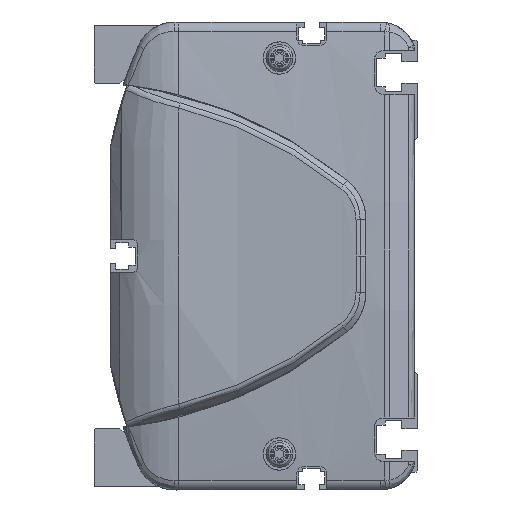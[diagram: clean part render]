
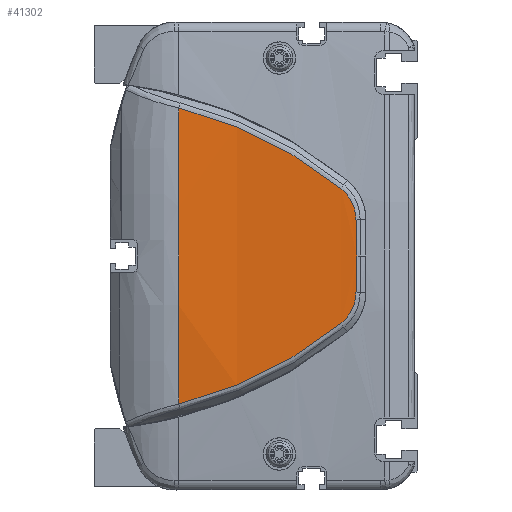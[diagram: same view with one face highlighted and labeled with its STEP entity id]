
A CAD part, left-side view. The second image highlights one B-rep face of the part: STEP entity #41302.
In plain terms, the highlighted cylindrical face has radius 500 mm (diameter 1000 mm), a partial arc.
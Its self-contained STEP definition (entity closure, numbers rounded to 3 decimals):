
#37562=CARTESIAN_POINT('',(486.,66.362,0.));
#37563=DIRECTION('',(0.,-1.,0.));
#37564=DIRECTION('',(-0.997,0.,0.082));
#37565=AXIS2_PLACEMENT_3D('',#37562,#37563,#37564);
#38456=CARTESIAN_POINT('',(-13.648,21.313,
-18.759));
#38457=CARTESIAN_POINT('',(-13.449,27.904,
-24.058));
#38458=CARTESIAN_POINT('',(-12.934,42.195,
-33.27));
#38459=CARTESIAN_POINT('',(-12.471,58.156,
-39.127));
#38460=CARTESIAN_POINT('',(-12.306,66.362,
-41.121));
#38462=CARTESIAN_POINT('',(-12.306,66.362,
41.121));
#38463=CARTESIAN_POINT('',(-12.471,58.156,
39.127));
#38464=CARTESIAN_POINT('',(-12.934,42.195,
33.27));
#38465=CARTESIAN_POINT('',(-13.449,27.904,
24.058));
#38466=CARTESIAN_POINT('',(-13.648,21.313,
18.759));
#38468=CARTESIAN_POINT('',(-13.648,21.313,
18.759));
#38469=CARTESIAN_POINT('',(-13.686,20.035,
17.736));
#38470=CARTESIAN_POINT('',(-13.779,17.936,
15.107));
#38471=CARTESIAN_POINT('',(-13.863,17.152,
11.827));
#38472=CARTESIAN_POINT('',(-13.896,17.124,
10.178));
#38474=CARTESIAN_POINT('',(-13.896,17.124,
10.178));
#38475=CARTESIAN_POINT('',(-13.92,17.107,
9.027));
#38476=CARTESIAN_POINT('',(-13.958,17.067,
6.738));
#38477=CARTESIAN_POINT('',(-13.993,16.98,
3.344));
#38478=CARTESIAN_POINT('',(-14.,16.898,
1.11));
#38479=CARTESIAN_POINT('',(-14.,16.849,
0.));
#38481=CARTESIAN_POINT('',(-14.,16.849,
0.));
#38482=CARTESIAN_POINT('',(-14.,16.898,
-1.11));
#38483=CARTESIAN_POINT('',(-13.993,16.98,
-3.344));
#38484=CARTESIAN_POINT('',(-13.958,17.067,
-6.737));
#38485=CARTESIAN_POINT('',(-13.92,17.107,
-9.029));
#38486=CARTESIAN_POINT('',(-13.896,17.124,
-10.18));
#38488=CARTESIAN_POINT('',(-13.896,17.124,
-10.18));
#38489=CARTESIAN_POINT('',(-13.863,17.152,
-11.828));
#38490=CARTESIAN_POINT('',(-13.779,17.937,
-15.109));
#38491=CARTESIAN_POINT('',(-13.686,20.035,
-17.736));
#38492=CARTESIAN_POINT('',(-13.648,21.313,
-18.759));
#39126=VERTEX_POINT('',#38456);
#39127=VERTEX_POINT('',#38460);
#39128=CARTESIAN_POINT('',(-12.306,66.362,
41.121));
#39129=VERTEX_POINT('',#39128);
#39130=VERTEX_POINT('',#38466);
#39131=VERTEX_POINT('',#38472);
#39132=VERTEX_POINT('',#38479);
#39133=VERTEX_POINT('',#38486);
#41283=CARTESIAN_POINT('',(486.,8.006,0.));
#41284=DIRECTION('',(0.,1.,0.));
#41285=DIRECTION('',(1.,0.,0.));
#41286=AXIS2_PLACEMENT_3D('',#41283,#41284,#41285);
#41287=CYLINDRICAL_SURFACE('',#41286,500.);
#41289=ORIENTED_EDGE('',*,*,#41288,.T.);
#41290=ORIENTED_EDGE('',*,*,#39928,.F.);
#41292=ORIENTED_EDGE('',*,*,#41291,.T.);
#41294=ORIENTED_EDGE('',*,*,#41293,.T.);
#41296=ORIENTED_EDGE('',*,*,#41295,.T.);
#41298=ORIENTED_EDGE('',*,*,#41297,.T.);
#41299=ORIENTED_EDGE('',*,*,#41273,.T.);
#41300=EDGE_LOOP('',(#41289,#41290,#41292,#41294,#41296,#41298,#41299));
#41301=FACE_OUTER_BOUND('',#41300,.F.);
#41302=ADVANCED_FACE('',(#41301),#41287,.T.);
#37566=CIRCLE('',#37565,500.);
#38461=B_SPLINE_CURVE_WITH_KNOTS('',3,(#38456,#38457,#38458,#38459,#38460),
.UNSPECIFIED.,.F.,.F.,(4,1,4),(0.,0.5,1.),.UNSPECIFIED.);
#38467=B_SPLINE_CURVE_WITH_KNOTS('',3,(#38462,#38463,#38464,#38465,#38466),
.UNSPECIFIED.,.F.,.F.,(4,1,4),(0.,0.5,1.),.UNSPECIFIED.);
#38473=B_SPLINE_CURVE_WITH_KNOTS('',3,(#38468,#38469,#38470,#38471,#38472),
.UNSPECIFIED.,.F.,.F.,(4,1,4),(0.,0.5,1.),.UNSPECIFIED.);
#38480=B_SPLINE_CURVE_WITH_KNOTS('',3,(#38474,#38475,#38476,#38477,#38478,
#38479),.UNSPECIFIED.,.F.,.F.,(4,1,1,4),(0.,0.333,
0.667,1.),.UNSPECIFIED.);
#38487=B_SPLINE_CURVE_WITH_KNOTS('',3,(#38481,#38482,#38483,#38484,#38485,
#38486),.UNSPECIFIED.,.F.,.F.,(4,1,1,4),(0.,0.333,
0.667,1.),.UNSPECIFIED.);
#38493=B_SPLINE_CURVE_WITH_KNOTS('',3,(#38488,#38489,#38490,#38491,#38492),
.UNSPECIFIED.,.F.,.F.,(4,1,4),(0.,0.5,1.),.UNSPECIFIED.);
#39928=EDGE_CURVE('',#39129,#39127,#37566,.T.);
#41273=EDGE_CURVE('',#39133,#39126,#38493,.T.);
#41288=EDGE_CURVE('',#39126,#39127,#38461,.T.);
#41291=EDGE_CURVE('',#39129,#39130,#38467,.T.);
#41293=EDGE_CURVE('',#39130,#39131,#38473,.T.);
#41295=EDGE_CURVE('',#39131,#39132,#38480,.T.);
#41297=EDGE_CURVE('',#39132,#39133,#38487,.T.);
